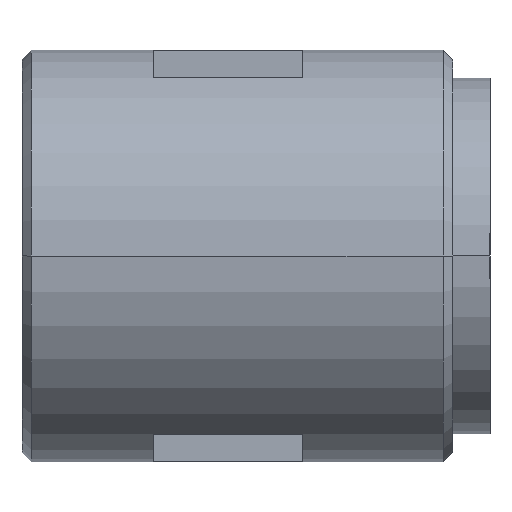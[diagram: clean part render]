
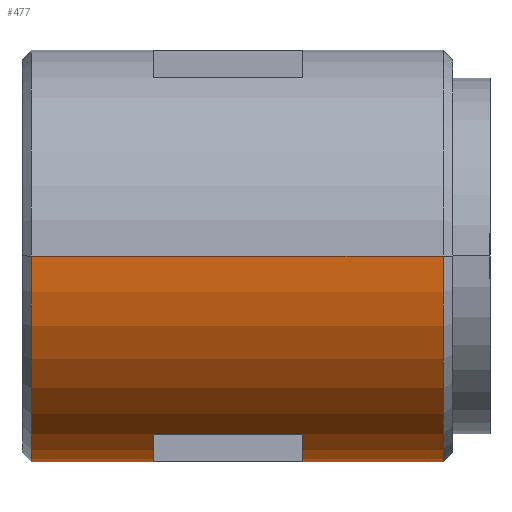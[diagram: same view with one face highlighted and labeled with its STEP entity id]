
A CAD part, left-side view. The second image highlights one B-rep face of the part: STEP entity #477.
In plain terms, the highlighted cylindrical face has radius 11 mm (diameter 22 mm), a partial arc.
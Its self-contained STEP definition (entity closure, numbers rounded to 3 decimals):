
#277=CARTESIAN_POINT('',(-11.0,4.75,0.));
#278=VERTEX_POINT('',#277);
#294=CARTESIAN_POINT('',(11.0,4.75,0.0));
#295=VERTEX_POINT('',#294);
#302=CARTESIAN_POINT('',(0.0,4.75,0.0));
#303=DIRECTION('',(0.0,1.0,0.0));
#304=DIRECTION('',(-1.0,0.0,0.0));
#305=AXIS2_PLACEMENT_3D('',#302,#303,#304);
#306=CIRCLE('',#305,11.0);
#307=EDGE_CURVE('',#295,#278,#306,.T.);
#354=CARTESIAN_POINT('',(0.0,-17.75,0.0));
#355=DIRECTION('',(0.0,1.0,0.0));
#356=DIRECTION('',(1.0,0.0,0.0));
#357=AXIS2_PLACEMENT_3D('',#354,#355,#356);
#358=CYLINDRICAL_SURFACE('',#357,11.0);
#359=CARTESIAN_POINT('',(11.0,-17.25,0.));
#360=VERTEX_POINT('',#359);
#361=CARTESIAN_POINT('',(11.0,-13.75,0.));
#362=VERTEX_POINT('',#361);
#363=CARTESIAN_POINT('',(11.0,-17.25,0.));
#364=DIRECTION('',(0.0,1.0,0.0));
#365=VECTOR('',#364,3.5);
#366=LINE('',#363,#365);
#367=EDGE_CURVE('',#360,#362,#366,.T.);
#368=ORIENTED_EDGE('',*,*,#367,.F.);
#369=CARTESIAN_POINT('',(-11.0,-17.25,0.0));
#370=VERTEX_POINT('',#369);
#371=CARTESIAN_POINT('',(0.0,-17.25,0.0));
#372=DIRECTION('',(0.0,-1.0,0.0));
#373=DIRECTION('',(1.0,0.0,0.0));
#374=AXIS2_PLACEMENT_3D('',#371,#372,#373);
#375=CIRCLE('',#374,11.0);
#376=EDGE_CURVE('',#370,#360,#375,.T.);
#377=ORIENTED_EDGE('',*,*,#376,.F.);
#378=CARTESIAN_POINT('',(-11.0,4.75,0.));
#379=DIRECTION('',(0.0,-1.0,0.0));
#380=VECTOR('',#379,22.);
#381=LINE('',#378,#380);
#382=EDGE_CURVE('',#278,#370,#381,.T.);
#383=ORIENTED_EDGE('',*,*,#382,.F.);
#384=ORIENTED_EDGE('',*,*,#307,.F.);
#385=CARTESIAN_POINT('',(11.0,2.25,0.));
#386=VERTEX_POINT('',#385);
#387=CARTESIAN_POINT('',(11.0,2.25,0.));
#388=DIRECTION('',(0.0,1.0,0.0));
#389=VECTOR('',#388,2.5);
#390=LINE('',#387,#389);
#391=EDGE_CURVE('',#386,#295,#390,.T.);
#392=ORIENTED_EDGE('',*,*,#391,.F.);
#393=CARTESIAN_POINT('',(8.199,-5.75,-7.333));
#394=VERTEX_POINT('',#393);
#395=CARTESIAN_POINT('',(11.0,2.25,0.));
#396=CARTESIAN_POINT('',(11.0,2.25,-0.389));
#397=CARTESIAN_POINT('',(10.979,2.216,-0.78));
#398=CARTESIAN_POINT('',(10.819,1.953,-2.282));
#399=CARTESIAN_POINT('',(10.525,1.47,-3.336));
#400=CARTESIAN_POINT('',(9.665,-0.119,-5.408));
#401=CARTESIAN_POINT('',(9.023,-1.392,-6.328));
#402=CARTESIAN_POINT('',(8.355,-3.801,-7.165));
#403=CARTESIAN_POINT('',(8.199,-4.772,-7.333));
#404=CARTESIAN_POINT('',(8.199,-5.75,-7.333));
#405=B_SPLINE_CURVE_WITH_KNOTS('',3,(#395,#396,#397,#398,#399,#400,#401,#402,#403,#404),.UNSPECIFIED.,.F.,.U.,(4,2,2,2,4),(32.805,33.88,37.02,41.264,43.74),.UNSPECIFIED.);
#406=EDGE_CURVE('',#394,#386,#405,.F.);
#407=ORIENTED_EDGE('',*,*,#406,.F.);
#408=CARTESIAN_POINT('',(8.199,-5.75,-7.333));
#409=CARTESIAN_POINT('',(8.199,-6.309,-7.333));
#410=CARTESIAN_POINT('',(8.248,-6.869,-7.279));
#411=CARTESIAN_POINT('',(8.484,-8.275,-7.006));
#412=CARTESIAN_POINT('',(8.729,-9.085,-6.711));
#413=CARTESIAN_POINT('',(9.448,-10.98,-5.686));
#414=CARTESIAN_POINT('',(9.967,-11.956,-4.796));
#415=CARTESIAN_POINT('',(10.745,-13.346,-2.623));
#416=CARTESIAN_POINT('',(11.0,-13.75,-1.312));
#417=CARTESIAN_POINT('',(11.0,-13.75,0.));
#418=B_SPLINE_CURVE_WITH_KNOTS('',3,(#408,#409,#410,#411,#412,#413,#414,#415,#416,#417),.UNSPECIFIED.,.F.,.U.,(4,2,2,2,4),(0.0,1.416,3.681,7.306,10.933),.UNSPECIFIED.);
#419=EDGE_CURVE('',#362,#394,#418,.F.);
#420=ORIENTED_EDGE('',*,*,#419,.F.);
#421=EDGE_LOOP('',(#368,#377,#383,#384,#392,#407,#420));
#422=FACE_OUTER_BOUND('',#421,.T.);
#423=CARTESIAN_POINT('',(5.5,-1.75,-9.526));
#424=VERTEX_POINT('',#423);
#425=CARTESIAN_POINT('',(0.0,-1.75,-11.0));
#426=VERTEX_POINT('',#425);
#427=CARTESIAN_POINT('',(0.0,-1.75,0.0));
#428=DIRECTION('',(0.0,1.0,0.0));
#429=DIRECTION('',(1.0,0.0,0.0));
#430=AXIS2_PLACEMENT_3D('',#427,#428,#429);
#431=CIRCLE('',#430,11.0);
#432=EDGE_CURVE('',#424,#426,#431,.T.);
#433=ORIENTED_EDGE('',*,*,#432,.T.);
#434=CARTESIAN_POINT('',(-5.5,-1.75,-9.526));
#435=VERTEX_POINT('',#434);
#436=CARTESIAN_POINT('',(0.0,-1.75,0.0));
#437=DIRECTION('',(0.0,1.0,0.0));
#438=DIRECTION('',(1.0,0.0,0.0));
#439=AXIS2_PLACEMENT_3D('',#436,#437,#438);
#440=CIRCLE('',#439,11.0);
#441=EDGE_CURVE('',#426,#435,#440,.T.);
#442=ORIENTED_EDGE('',*,*,#441,.T.);
#443=CARTESIAN_POINT('',(-5.5,-9.75,-9.526));
#444=VERTEX_POINT('',#443);
#445=CARTESIAN_POINT('',(-5.5,-1.75,-9.526));
#446=DIRECTION('',(0.0,-1.0,0.0));
#447=VECTOR('',#446,8.0);
#448=LINE('',#445,#447);
#449=EDGE_CURVE('',#435,#444,#448,.T.);
#450=ORIENTED_EDGE('',*,*,#449,.T.);
#451=CARTESIAN_POINT('',(0.0,-9.75,-11.0));
#452=VERTEX_POINT('',#451);
#453=CARTESIAN_POINT('',(0.0,-9.75,0.0));
#454=DIRECTION('',(0.0,-1.0,0.0));
#455=DIRECTION('',(1.0,0.0,0.0));
#456=AXIS2_PLACEMENT_3D('',#453,#454,#455);
#457=CIRCLE('',#456,11.0);
#458=EDGE_CURVE('',#444,#452,#457,.T.);
#459=ORIENTED_EDGE('',*,*,#458,.T.);
#460=CARTESIAN_POINT('',(5.5,-9.75,-9.526));
#461=VERTEX_POINT('',#460);
#462=CARTESIAN_POINT('',(0.0,-9.75,0.0));
#463=DIRECTION('',(0.0,-1.0,0.0));
#464=DIRECTION('',(1.0,0.0,0.0));
#465=AXIS2_PLACEMENT_3D('',#462,#463,#464);
#466=CIRCLE('',#465,11.0);
#467=EDGE_CURVE('',#452,#461,#466,.T.);
#468=ORIENTED_EDGE('',*,*,#467,.T.);
#469=CARTESIAN_POINT('',(5.5,-9.75,-9.526));
#470=DIRECTION('',(0.0,1.0,0.0));
#471=VECTOR('',#470,8.);
#472=LINE('',#469,#471);
#473=EDGE_CURVE('',#461,#424,#472,.T.);
#474=ORIENTED_EDGE('',*,*,#473,.T.);
#475=EDGE_LOOP('',(#433,#442,#450,#459,#468,#474));
#476=FACE_BOUND('',#475,.T.);
#477=ADVANCED_FACE('',(#422,#476),#358,.T.);
